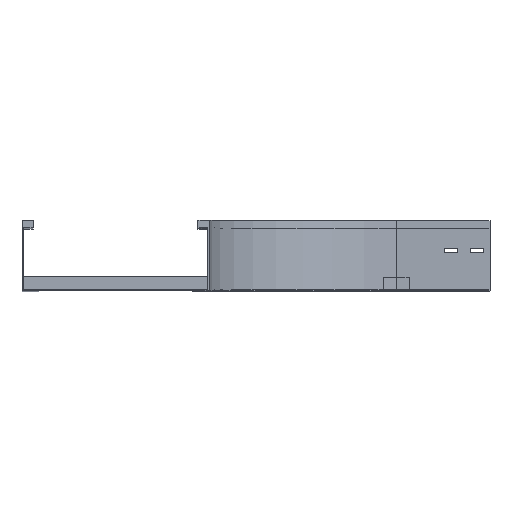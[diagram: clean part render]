
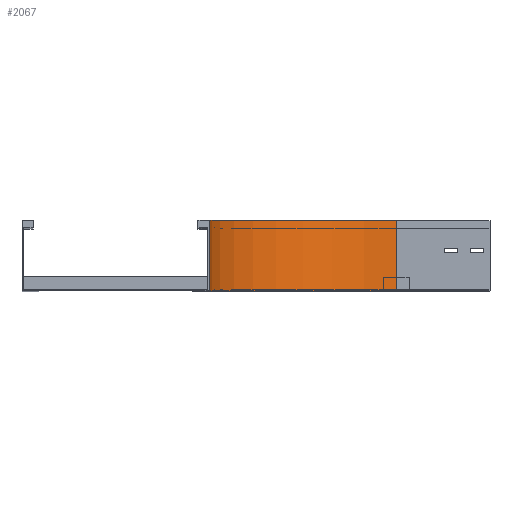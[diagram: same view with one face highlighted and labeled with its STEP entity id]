
A CAD part, top view. The second image highlights one B-rep face of the part: STEP entity #2067.
In plain terms, the highlighted cylindrical face has radius 300 mm (diameter 600 mm), a partial arc.
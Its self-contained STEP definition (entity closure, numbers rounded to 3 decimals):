
#67 = DIRECTION ( 'NONE',  ( 0., 1., 0. ) ) ;
#300 = CYLINDRICAL_SURFACE ( 'NONE', #373, 300. ) ;
#301 = DIRECTION ( 'NONE',  ( -1., 0., 0. ) ) ;
#321 = DIRECTION ( 'NONE',  ( 0., -1., 0. ) ) ;
#367 = AXIS2_PLACEMENT_3D ( 'NONE', #3531, #321, #301 ) ;
#373 = AXIS2_PLACEMENT_3D ( 'NONE', #2045, #1205, #2398 ) ;
#401 = DIRECTION ( 'NONE',  ( -1., 0., 0. ) ) ;
#695 = DIRECTION ( 'NONE',  ( 0., -1., 0. ) ) ;
#714 = CARTESIAN_POINT ( 'NONE',  ( 0., 0., -150. ) ) ;
#771 = EDGE_CURVE ( 'NONE', #2674, #2886, #2371, .T. ) ;
#781 = CARTESIAN_POINT ( 'NONE',  ( 300., 0., -450. ) ) ;
#858 = VERTEX_POINT ( 'NONE', #2736 ) ;
#1028 = ORIENTED_EDGE ( 'NONE', *, *, #771, .T. ) ;
#1205 = DIRECTION ( 'NONE',  ( 0., -1., 0. ) ) ;
#1375 = CIRCLE ( 'NONE', #367, 300. ) ;
#1688 = CIRCLE ( 'NONE', #2116, 300. ) ;
#1730 = ORIENTED_EDGE ( 'NONE', *, *, #3237, .F. ) ;
#2045 = CARTESIAN_POINT ( 'NONE',  ( 300., 0., -150. ) ) ;
#2050 = CARTESIAN_POINT ( 'NONE',  ( 300., 112.5, -450. ) ) ;
#2067 = ADVANCED_FACE ( 'NONE', ( #2923 ), #300, .F. ) ;
#2116 = AXIS2_PLACEMENT_3D ( 'NONE', #2461, #695, #401 ) ;
#2371 = LINE ( 'NONE', #3007, #2662 ) ;
#2388 = DIRECTION ( 'NONE',  ( 0., 1., 0. ) ) ;
#2398 = DIRECTION ( 'NONE',  ( 0., 0., -1. ) ) ;
#2399 = CARTESIAN_POINT ( 'NONE',  ( 0., 112.5, -150. ) ) ;
#2461 = CARTESIAN_POINT ( 'NONE',  ( 300., 0., -150. ) ) ;
#2662 = VECTOR ( 'NONE', #2388, 1000. ) ;
#2674 = VERTEX_POINT ( 'NONE', #781 ) ;
#2736 = CARTESIAN_POINT ( 'NONE',  ( 0., 0., -150. ) ) ;
#2886 = VERTEX_POINT ( 'NONE', #2050 ) ;
#2906 = EDGE_CURVE ( 'NONE', #858, #2674, #1688, .T. ) ;
#2923 = FACE_OUTER_BOUND ( 'NONE', #3583, .T. ) ;
#2926 = EDGE_CURVE ( 'NONE', #858, #3276, #3374, .T. ) ;
#3007 = CARTESIAN_POINT ( 'NONE',  ( 300., 0., -450. ) ) ;
#3237 = EDGE_CURVE ( 'NONE', #3276, #2886, #1375, .T. ) ;
#3276 = VERTEX_POINT ( 'NONE', #2399 ) ;
#3296 = ORIENTED_EDGE ( 'NONE', *, *, #2926, .F. ) ;
#3374 = LINE ( 'NONE', #714, #3734 ) ;
#3531 = CARTESIAN_POINT ( 'NONE',  ( 300., 112.5, -150. ) ) ;
#3583 = EDGE_LOOP ( 'NONE', ( #1730, #3296, #3752, #1028 ) ) ;
#3734 = VECTOR ( 'NONE', #67, 1000. ) ;
#3752 = ORIENTED_EDGE ( 'NONE', *, *, #2906, .T. ) ;
